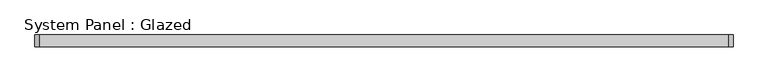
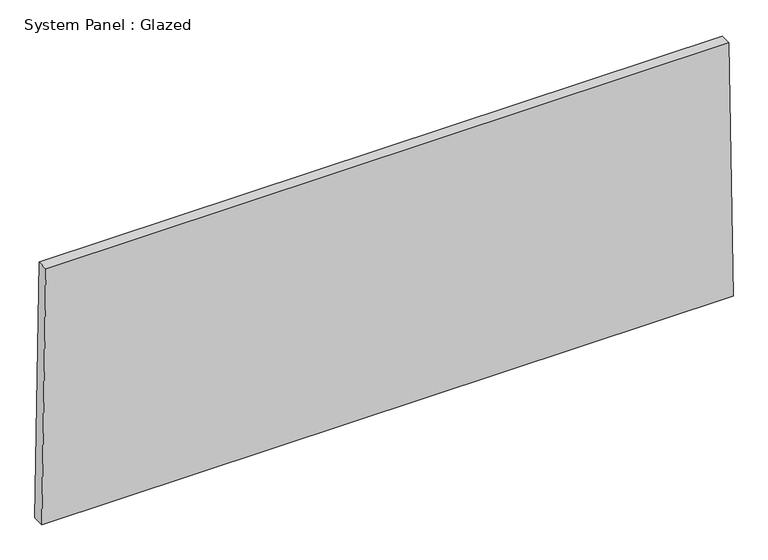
"""IFC4 building model written with IfcOpenShell, lengths in millimetres: plate geometry, System Panel : Glazed."""

from ifc_helpers import new_model, si_unit, frame, origin, place, context, project, spatial, polyline, outline, extrude, source, transform, mapped, element, save


def system_panel_glazed_94c3709e(model_context):
    return source(origin(), model_context, "Body", "SweptSolid", [
        extrude(outline(polyline([(0.0, -750.4470024), (0.0, 750.4470024), (584.1270913, 741.4119927), (584.1270913, -741.4119927), (0.0, -750.4470024)])), frame((0.0, -44.45, 0.0), z_axis=(0.0, 1.0, 0.0), x_axis=(0.0, 0.0, 1.0)), (0.0, 0.0, 1.0), 25.4),
    ])


if __name__ == "__main__":
    model = new_model("IFC4")
    model_context = context("Model", 3, world=origin())
    ifc_project = project(units=[si_unit("LENGTHUNIT", "METRE", prefix="MILLI")], contexts=[model_context])
    site = spatial("IfcSite", under=ifc_project)
    building = spatial("IfcBuilding", under=site)
    placement = place(None, origin())
    system_panel_glazed_shape = system_panel_glazed_94c3709e(model_context)
    element("IfcPlate", 1, ObjectType="System Panel : Glazed", at=placement, inside=building, context=model_context, shape_type="MappedRepresentation", body=[
        mapped(system_panel_glazed_shape, transform((0.0, 0.0, 0.0), x_axis=(1.0, 0.0, 0.0), y_axis=(0.0, 1.0, 0.0), z_axis=(0.0, 0.0, 1.0))),
    ])
    save(model, "model.ifc")
